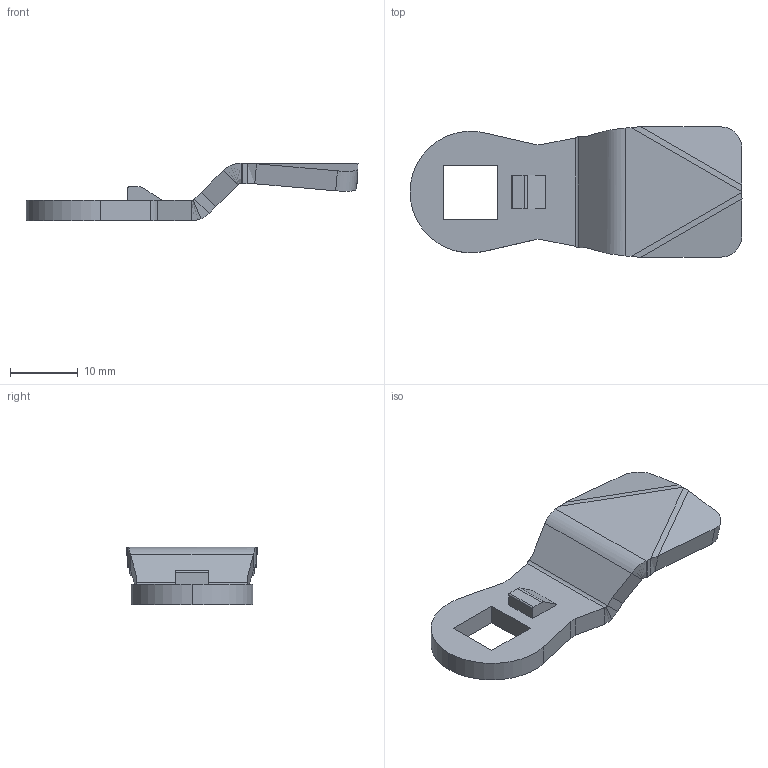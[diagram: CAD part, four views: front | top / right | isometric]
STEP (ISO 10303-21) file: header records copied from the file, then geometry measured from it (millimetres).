
FILE_DESCRIPTION (( 'STEP AP214' ), '1' );
FILE_NAME ('J-10024.STEP', '2010-03-02T19:17:50', ( '£ukaszC' ), ( '' ), 'SwSTEP 2.0', 'SolidWorks 2008', '' );
FILE_SCHEMA (( 'AUTOMOTIVE_DESIGN' ));
Length unit declared in the file: millimetre
Products named in the file (1): J-10024
Bounding box: 49.11 x 19.4 x 8.5 mm (x, y, z)
Volume: 2378.4 mm3; surface area: 2115.7 mm2
Topology: 1 solids, 1 shells, 69 faces, 163 edges, 98 vertices
Faces by surface type: plane 45, cylinder 16, bspline 8
Entity records: 2014 total; most frequent: CARTESIAN_POINT 485, ORIENTED_EDGE 326, DIRECTION 275, EDGE_CURVE 163, VECTOR 111, LINE 111, VERTEX_POINT 98, AXIS2_PLACEMENT_3D 82
